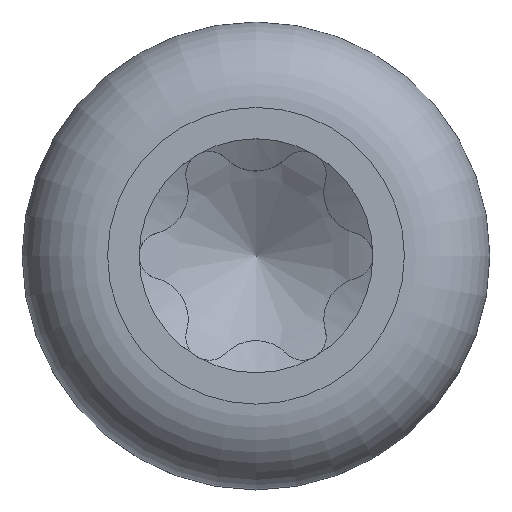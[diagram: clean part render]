
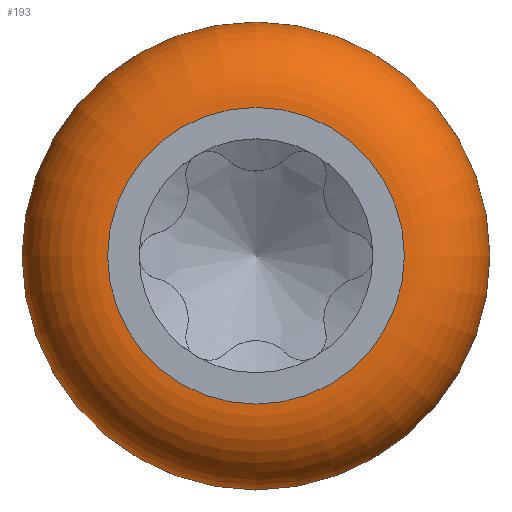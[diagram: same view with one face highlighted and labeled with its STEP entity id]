
A CAD part, top view. The second image highlights one B-rep face of the part: STEP entity #193.
In plain terms, the highlighted toroidal (fillet/blend) face has major radius 1.11 mm and minor radius 0.64 mm.
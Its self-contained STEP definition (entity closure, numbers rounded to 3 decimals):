
#193=ADVANCED_FACE('',(#328,#329),#240,.T.);
#240=TOROIDAL_SURFACE('',#897,1.11,0.64);
#328=FACE_BOUND('',#352,.T.);
#329=FACE_BOUND('',#353,.T.);
#352=EDGE_LOOP('',(#445));
#353=EDGE_LOOP('',(#446));
#445=ORIENTED_EDGE('',*,*,#770,.F.);
#446=ORIENTED_EDGE('',*,*,#769,.T.);
#683=VERTEX_POINT('',#1659);
#684=VERTEX_POINT('',#1662);
#769=EDGE_CURVE('',#683,#683,#867,.T.);
#770=EDGE_CURVE('',#684,#684,#868,.T.);
#867=CIRCLE('',#894,1.75);
#868=CIRCLE('',#896,1.11);
#894=AXIS2_PLACEMENT_3D('',#1658,#967,#968);
#896=AXIS2_PLACEMENT_3D('',#1661,#971,#972);
#897=AXIS2_PLACEMENT_3D('',#1663,#973,#974);
#967=DIRECTION('',(0.,0.,1.));
#968=DIRECTION('',(1.,0.,0.));
#971=DIRECTION('',(0.,0.,1.));
#972=DIRECTION('',(1.,0.,0.));
#973=DIRECTION('',(0.,0.,1.));
#974=DIRECTION('',(1.,0.,0.));
#1658=CARTESIAN_POINT('',(0.,0.,0.96));
#1659=CARTESIAN_POINT('',(1.75,0.,0.96));
#1661=CARTESIAN_POINT('',(0.,0.,1.6));
#1662=CARTESIAN_POINT('',(1.11,0.,1.6));
#1663=CARTESIAN_POINT('',(0.,0.,0.96));
